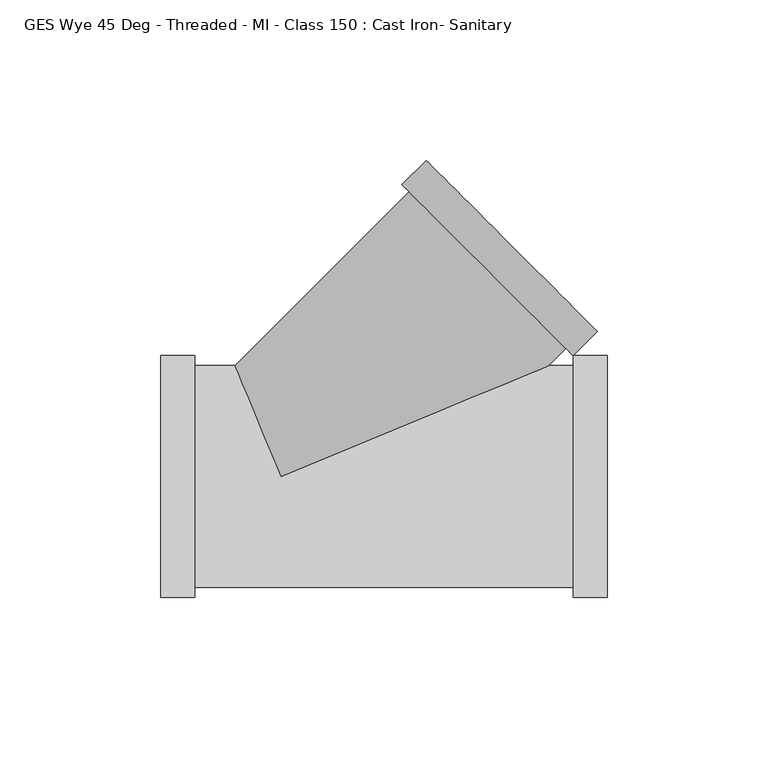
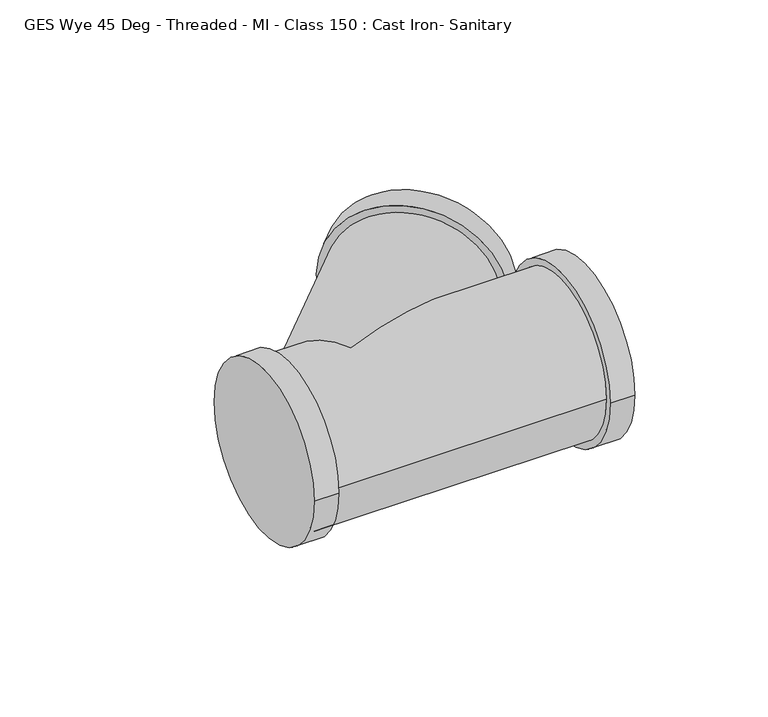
"""IFC4 building model written with IfcOpenShell, lengths in millimetres: pipe fitting geometry, GES Wye 45 Deg - Threaded - MI - Class 150 : Cast Iron- Sanitary."""

from ifc_helpers import new_model, si_unit, frame, origin, place, context, project, spatial, circle_curve, ellipse_curve, source, transform, mapped, element, save
from ifc_brep_helpers import plane_surface, cylinder_surface, advanced_brep


def ges_wye_45_deg_threaded_mi_class_150_cast_iron_sanitary_c88a242e(model_context):
    return source(origin(), model_context, "Body", "AdvancedBrep", [
        advanced_brep(
        [(39.8466037, 88.6953284, 0.0), (-14.3072179, 34.54, 0.0), (0.0, 0.0, 34.54), (83.3852959, 34.54, 0.0), (88.6942197, 39.8490715, 0.0), (0.0, 0.0, -34.54), (37.647471, 90.8943999, 0.0), (90.8933524, 37.65, 0.0), (45.2134083, 98.4605477, 0.0), (98.4592897, 45.2161478, 0.0), (-26.8, -34.54, 0.0), (-26.8, 34.54, 0.0), (90.8933524, 34.54, 0.0), (90.8933524, -34.54, 0.0), (-26.8, 37.65, 0.0), (-26.8, -37.65, 0.0), (-37.5, 37.65, 0.0), (-37.5, -37.65, 0.0), (90.8933524, 37.65, 0.0), (90.8933524, -37.65, 0.0), (101.5933524, 37.65, 0.0), (101.5933524, -37.65, 0.0)],
        [
            (0, 1),
            (1, 2, ellipse_curve(frame((0.0, 0.0, 0.0), z_axis=(0.9238768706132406, 0.38268985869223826, 0.0), x_axis=(0.38268985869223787, -0.9238768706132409, 0.0)), 37.3859343, 34.54)),
            (2, 3, ellipse_curve(frame((0.0, 0.0, 0.0), z_axis=(-0.3826898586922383, 0.9238768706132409, 0.0), x_axis=(-0.9238768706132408, -0.38268985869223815, 0.0)), 90.255854, 34.54)),
            (3, 4),
            (4, 0, circle_curve(frame((64.2704117, 64.2721999, 0.0), z_axis=(-0.7070969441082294, -0.7071166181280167, 0.0), x_axis=(0.7071166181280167, -0.7070969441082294, 0.0)), 34.54)),
            (3, 5, ellipse_curve(frame((0.0, 0.0, 0.0), z_axis=(-0.3826898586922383, 0.9238768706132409, 0.0), x_axis=(-0.9238768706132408, -0.38268985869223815, 0.0)), 90.255854, 34.54)),
            (5, 1, ellipse_curve(frame((0.0, 0.0, 0.0), z_axis=(0.9238768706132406, 0.38268985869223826, 0.0), x_axis=(0.38268985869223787, -0.9238768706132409, 0.0)), 37.3859343, 34.54)),
            (0, 4, circle_curve(frame((64.2704117, 64.2721999, 0.0), z_axis=(-0.7070969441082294, -0.7071166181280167, 0.0), x_axis=(0.7071166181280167, -0.7070969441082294, 0.0)), 34.54)),
            (6, 7, circle_curve(frame((64.2704117, 64.2721999, 0.0), z_axis=(-0.7070969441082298, -0.7071166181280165, 0.0), x_axis=(0.7071166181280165, -0.7070969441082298, 0.0)), 37.65)),
            (7, 6, circle_curve(frame((64.2704117, 64.2721999, 0.0), z_axis=(-0.7070969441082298, -0.7071166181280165, 0.0), x_axis=(0.7071166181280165, -0.7070969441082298, 0.0)), 37.65)),
            (8, 9, circle_curve(frame((71.836349, 71.8383478, 0.0), z_axis=(0.7070969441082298, 0.7071166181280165, 0.0), x_axis=(0.7071166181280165, -0.7070969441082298, 0.0)), 37.65)),
            (9, 8, circle_curve(frame((71.836349, 71.8383478, 0.0), z_axis=(0.7070969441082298, 0.7071166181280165, 0.0), x_axis=(0.7071166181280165, -0.7070969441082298, 0.0)), 37.65)),
            (7, 9),
            (8, 6),
            (10, 11, circle_curve(frame((-26.8, 0.0, 0.0), z_axis=(1.0, 0.0, 0.0), x_axis=(0.0, -1.0, 0.0)), 34.54)),
            (11, 1),
            (3, 12),
            (12, 13, circle_curve(frame((90.8933524, 0.0, 0.0), z_axis=(-1.0, 0.0, 0.0), x_axis=(0.0, -1.0, 0.0)), 34.54)),
            (13, 10),
            (13, 12, circle_curve(frame((90.8933524, 0.0, 0.0), z_axis=(-1.0, 0.0, 0.0), x_axis=(0.0, -1.0, 0.0)), 34.54)),
            (11, 10, circle_curve(frame((-26.8, 0.0, 0.0), z_axis=(1.0, 0.0, 0.0), x_axis=(0.0, -1.0, 0.0)), 34.54)),
            (14, 15, circle_curve(frame((-26.8, 0.0, 0.0), z_axis=(1.0, 0.0, 0.0), x_axis=(0.0, -1.0, 0.0)), 37.65)),
            (15, 14, circle_curve(frame((-26.8, 0.0, 0.0), z_axis=(1.0, 0.0, 0.0), x_axis=(0.0, -1.0, 0.0)), 37.65)),
            (16, 17, circle_curve(frame((-37.5, 0.0, 0.0), z_axis=(-1.0, 0.0, 0.0), x_axis=(0.0, -1.0, 0.0)), 37.65)),
            (17, 16, circle_curve(frame((-37.5, 0.0, 0.0), z_axis=(-1.0, 0.0, 0.0), x_axis=(0.0, -1.0, 0.0)), 37.65)),
            (15, 17),
            (16, 14),
            (18, 19, circle_curve(frame((90.8933524, 0.0, 0.0), z_axis=(-1.0, 0.0, 0.0), x_axis=(0.0, -1.0, 0.0)), 37.65)),
            (19, 18, circle_curve(frame((90.8933524, 0.0, 0.0), z_axis=(-1.0, 0.0, 0.0), x_axis=(0.0, -1.0, 0.0)), 37.65)),
            (20, 21, circle_curve(frame((101.5933524, 0.0, 0.0), z_axis=(1.0, 0.0, 0.0), x_axis=(0.0, -1.0, 0.0)), 37.65)),
            (21, 20, circle_curve(frame((101.5933524, 0.0, 0.0), z_axis=(1.0, 0.0, 0.0), x_axis=(0.0, -1.0, 0.0)), 37.65)),
            (18, 20),
            (21, 19),
        ],
        [
            cylinder_surface(frame((0.0, 0.0, 0.0), z_axis=(-0.7070969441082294, -0.7071166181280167, 0.0), x_axis=(0.7071166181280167, -0.7070969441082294, 0.0)), 34.54),
            plane_surface(frame((64.2704117, 64.2721999, 0.0), z_axis=(-0.7070969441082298, -0.7071166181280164, 0.0), x_axis=(0.0, 0.0, 1.0))),
            plane_surface(frame((71.836349, 71.8383478, 0.0), z_axis=(0.7070969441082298, 0.7071166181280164, 0.0), x_axis=(0.0, 0.0, 1.0))),
            cylinder_surface(frame((64.2704117, 64.2721999, 0.0), z_axis=(-0.7070969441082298, -0.7071166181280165, 0.0), x_axis=(0.7071166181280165, -0.7070969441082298, 0.0)), 37.65),
            cylinder_surface(frame((-26.8, 0.0, 0.0), z_axis=(1.0, 0.0, 0.0), x_axis=(0.0, -1.0, 0.0)), 34.54),
            plane_surface(frame((-26.8, -37.65, 0.0), z_axis=(1.0, 0.0, 0.0), x_axis=(0.0, 0.0, 1.0))),
            plane_surface(frame((-37.5, -37.65, 0.0), z_axis=(-1.0, 0.0, 0.0), x_axis=(0.0, 0.0, -1.0))),
            cylinder_surface(frame((-37.5, 0.0, 0.0), z_axis=(1.0, 0.0, 0.0), x_axis=(0.0, -1.0, 0.0)), 37.65),
            plane_surface(frame((90.8933524, -37.65, 0.0), z_axis=(-1.0, 0.0, 0.0), x_axis=(0.0, 0.0, -1.0))),
            plane_surface(frame((101.5933524, -37.65, 0.0), z_axis=(1.0, 0.0, 0.0), x_axis=(0.0, 0.0, 1.0))),
            cylinder_surface(frame((90.8933524, 0.0, 0.0), z_axis=(1.0, 0.0, 0.0), x_axis=(0.0, -1.0, 0.0)), 37.65),
        ],
        [
            (0, [[1, 2, 3, 4, 5]]),
            (0, [[-4, 6, 7, -1, 8]]),
            (1, [[9, 10], [-8, -5]]),
            (2, [[11, 12]]),
            (3, [[13, -11, 14, -10]]),
            (3, [[-14, -12, -13, -9]]),
            (4, [[15, 16, -7, -6, 17, 18, 19]]),
            (4, [[20, -17, -3, -2, -16, 21, -19]]),
            (5, [[22, 23], [-21, -15]]),
            (6, [[24, 25]]),
            (7, [[26, -24, 27, -23]]),
            (7, [[-27, -25, -26, -22]]),
            (8, [[28, 29], [-20, -18]]),
            (9, [[30, 31]]),
            (10, [[32, -31, 33, -28]]),
            (10, [[-33, -30, -32, -29]]),
        ],
    ),
    ])


if __name__ == "__main__":
    model = new_model("IFC4")
    model_context = context("Model", 3, world=origin())
    ifc_project = project(units=[si_unit("LENGTHUNIT", "METRE", prefix="MILLI")], contexts=[model_context])
    site = spatial("IfcSite", under=ifc_project)
    building = spatial("IfcBuilding", under=site)
    placement = place(None, origin())
    ges_wye_45_deg_threaded_mi_class_150_cast_iron_sanitary_shape = ges_wye_45_deg_threaded_mi_class_150_cast_iron_sanitary_c88a242e(model_context)
    element("IfcPipeFitting", 1, ObjectType="GES Wye 45 Deg - Threaded - MI - Class 150 : Cast Iron- Sanitary", at=placement, inside=building, context=model_context, shape_type="MappedRepresentation", body=[
        mapped(ges_wye_45_deg_threaded_mi_class_150_cast_iron_sanitary_shape, transform((0.0, 0.0, 0.0), x_axis=(1.0, 0.0, 0.0), y_axis=(0.0, 1.0, 0.0), z_axis=(0.0, 0.0, 1.0))),
    ])
    save(model, "model.ifc")
